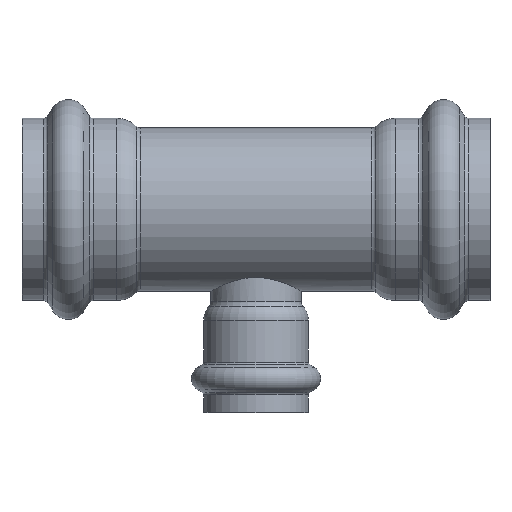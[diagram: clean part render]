
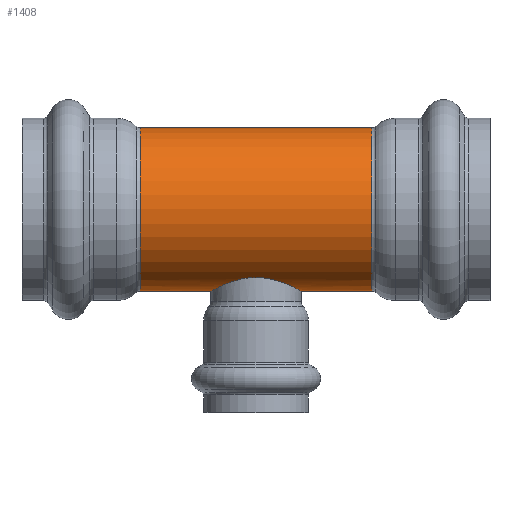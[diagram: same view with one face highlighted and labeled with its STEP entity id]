
A CAD part, top view. The second image highlights one B-rep face of the part: STEP entity #1408.
In plain terms, the highlighted cylindrical face has radius 24.13 mm (diameter 48.26 mm), a full revolution.
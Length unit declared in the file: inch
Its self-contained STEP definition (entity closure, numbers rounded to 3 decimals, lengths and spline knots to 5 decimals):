
#134=FACE_OUTER_BOUND('',#197,.T.);
#197=EDGE_LOOP('',(#1132,#1133,#1134,#1135,#1136,#1137,#1138,#1139,#1140,
#1141,#1142,#1143,#1144,#1145));
#334=CIRCLE('',#1605,0.95);
#335=CIRCLE('',#1606,0.95);
#336=CIRCLE('',#1607,0.95);
#337=CIRCLE('',#1609,0.95);
#338=CIRCLE('',#1610,0.95);
#339=CIRCLE('',#1611,0.95);
#420=LINE('',#2646,#450);
#421=LINE('',#2647,#451);
#450=VECTOR('',#2052,0.95);
#451=VECTOR('',#2053,0.95);
#460=B_SPLINE_CURVE_WITH_KNOTS('',3,(#2252,#2253,#2254,#2255,#2256,#2257,
#2258,#2259,#2260,#2261,#2262,#2263,#2264,#2265),.UNSPECIFIED.,.F.,.F.,
(4,2,2,2,2,2,4),(0.,0.25822,0.51643,1.03286,
1.54705,1.80414,2.06124),.UNSPECIFIED.);
#461=B_SPLINE_CURVE_WITH_KNOTS('',3,(#2267,#2268,#2269,#2270,#2271,#2272,
#2273,#2274,#2275,#2276,#2277,#2278,#2279,#2280),.UNSPECIFIED.,.F.,.F.,
(4,2,2,2,2,2,4),(6.18371,6.44081,6.6979,7.21209,
7.72852,7.98673,8.24495),.UNSPECIFIED.);
#462=B_SPLINE_CURVE_WITH_KNOTS('',3,(#2282,#2283,#2284,#2285,#2286,#2287,
#2288,#2289,#2290,#2291,#2292,#2293,#2294,#2295),.UNSPECIFIED.,.F.,.F.,
(4,2,2,2,2,2,4),(4.12247,4.38069,4.63891,5.15534,
5.66952,5.92662,6.18371),.UNSPECIFIED.);
#463=B_SPLINE_CURVE_WITH_KNOTS('',3,(#2301,#2302,#2303,#2304,#2305,#2306,
#2307,#2308,#2309,#2310,#2311,#2312,#2313,#2314),.UNSPECIFIED.,.F.,.F.,
(4,2,2,2,2,2,4),(2.06124,2.31833,2.57543,3.08961,
3.60604,3.86426,4.12247),.UNSPECIFIED.);
#468=VERTEX_POINT('',#2250);
#469=VERTEX_POINT('',#2251);
#470=VERTEX_POINT('',#2266);
#471=VERTEX_POINT('',#2281);
#572=VERTEX_POINT('',#2633);
#573=VERTEX_POINT('',#2635);
#574=VERTEX_POINT('',#2637);
#575=VERTEX_POINT('',#2641);
#576=VERTEX_POINT('',#2642);
#577=VERTEX_POINT('',#2644);
#628=EDGE_CURVE('',#468,#469,#460,.T.);
#629=EDGE_CURVE('',#470,#468,#461,.T.);
#630=EDGE_CURVE('',#471,#470,#462,.T.);
#634=EDGE_CURVE('',#469,#471,#463,.T.);
#772=EDGE_CURVE('',#573,#572,#334,.T.);
#773=EDGE_CURVE('',#574,#573,#335,.T.);
#774=EDGE_CURVE('',#572,#574,#336,.T.);
#775=EDGE_CURVE('',#575,#576,#337,.T.);
#776=EDGE_CURVE('',#577,#575,#338,.T.);
#777=EDGE_CURVE('',#577,#469,#420,.T.);
#778=EDGE_CURVE('',#470,#574,#421,.T.);
#779=EDGE_CURVE('',#576,#577,#339,.T.);
#1132=ORIENTED_EDGE('',*,*,#775,.F.);
#1133=ORIENTED_EDGE('',*,*,#776,.F.);
#1134=ORIENTED_EDGE('',*,*,#777,.T.);
#1135=ORIENTED_EDGE('',*,*,#634,.T.);
#1136=ORIENTED_EDGE('',*,*,#630,.T.);
#1137=ORIENTED_EDGE('',*,*,#778,.T.);
#1138=ORIENTED_EDGE('',*,*,#773,.T.);
#1139=ORIENTED_EDGE('',*,*,#772,.T.);
#1140=ORIENTED_EDGE('',*,*,#774,.T.);
#1141=ORIENTED_EDGE('',*,*,#778,.F.);
#1142=ORIENTED_EDGE('',*,*,#629,.T.);
#1143=ORIENTED_EDGE('',*,*,#628,.T.);
#1144=ORIENTED_EDGE('',*,*,#777,.F.);
#1145=ORIENTED_EDGE('',*,*,#779,.F.);
#1299=CYLINDRICAL_SURFACE('',#1608,0.95);
#1408=ADVANCED_FACE('',(#134),#1299,.T.);
#1605=AXIS2_PLACEMENT_3D('',#2636,#2040,#2041);
#1606=AXIS2_PLACEMENT_3D('',#2638,#2042,#2043);
#1607=AXIS2_PLACEMENT_3D('',#2639,#2044,#2045);
#1608=AXIS2_PLACEMENT_3D('',#2640,#2046,#2047);
#1609=AXIS2_PLACEMENT_3D('',#2643,#2048,#2049);
#1610=AXIS2_PLACEMENT_3D('',#2645,#2050,#2051);
#1611=AXIS2_PLACEMENT_3D('',#2648,#2054,#2055);
#2040=DIRECTION('center_axis',(1.,0.,0.));
#2041=DIRECTION('ref_axis',(0.,1.,0.));
#2042=DIRECTION('center_axis',(1.,0.,0.));
#2043=DIRECTION('ref_axis',(0.,1.,0.));
#2044=DIRECTION('center_axis',(1.,0.,0.));
#2045=DIRECTION('ref_axis',(0.,1.,0.));
#2046=DIRECTION('center_axis',(1.,0.,0.));
#2047=DIRECTION('ref_axis',(0.,1.,0.));
#2048=DIRECTION('center_axis',(1.,0.,0.));
#2049=DIRECTION('ref_axis',(0.,1.,0.));
#2050=DIRECTION('center_axis',(1.,0.,0.));
#2051=DIRECTION('ref_axis',(0.,1.,0.));
#2052=DIRECTION('',(-1.,0.,0.));
#2053=DIRECTION('',(-1.,0.,0.));
#2054=DIRECTION('center_axis',(1.,0.,0.));
#2055=DIRECTION('ref_axis',(0.,1.,0.));
#2250=CARTESIAN_POINT('',(0.,-0.79175,0.525));
#2251=CARTESIAN_POINT('',(0.525,-0.95,0.));
#2252=CARTESIAN_POINT('Ctrl Pts',(0.,-0.79175,0.525));
#2253=CARTESIAN_POINT('Ctrl Pts',(0.03389,-0.79175,
0.525));
#2254=CARTESIAN_POINT('Ctrl Pts',(0.06859,-0.79399,
0.52167));
#2255=CARTESIAN_POINT('Ctrl Pts',(0.13706,-0.80281,
0.508));
#2256=CARTESIAN_POINT('Ctrl Pts',(0.17081,-0.80937,
0.49766));
#2257=CARTESIAN_POINT('Ctrl Pts',(0.26733,-0.83334,
0.4572));
#2258=CARTESIAN_POINT('Ctrl Pts',(0.32533,-0.85498,
0.41713));
#2259=CARTESIAN_POINT('Ctrl Pts',(0.41693,-0.89386,
0.32553));
#2260=CARTESIAN_POINT('Ctrl Pts',(0.45714,-0.91396,
0.26747));
#2261=CARTESIAN_POINT('Ctrl Pts',(0.49769,-0.93512,0.17073));
#2262=CARTESIAN_POINT('Ctrl Pts',(0.50804,-0.94072,
0.1369));
#2263=CARTESIAN_POINT('Ctrl Pts',(0.52169,-0.94816,
0.0684));
#2264=CARTESIAN_POINT('Ctrl Pts',(0.525,-0.95,0.03374));
#2265=CARTESIAN_POINT('Ctrl Pts',(0.525,-0.95,0.));
#2266=CARTESIAN_POINT('',(-0.525,-0.95,0.));
#2267=CARTESIAN_POINT('Ctrl Pts',(-0.525,-0.95,0.));
#2268=CARTESIAN_POINT('Ctrl Pts',(-0.525,-0.95,0.03374));
#2269=CARTESIAN_POINT('Ctrl Pts',(-0.52169,-0.94816,
0.0684));
#2270=CARTESIAN_POINT('Ctrl Pts',(-0.50804,-0.94072,
0.1369));
#2271=CARTESIAN_POINT('Ctrl Pts',(-0.49769,-0.93512,0.17073));
#2272=CARTESIAN_POINT('Ctrl Pts',(-0.45714,-0.91396,
0.26747));
#2273=CARTESIAN_POINT('Ctrl Pts',(-0.41693,-0.89386,
0.32553));
#2274=CARTESIAN_POINT('Ctrl Pts',(-0.32533,-0.85498,
0.41713));
#2275=CARTESIAN_POINT('Ctrl Pts',(-0.26733,-0.83334,
0.4572));
#2276=CARTESIAN_POINT('Ctrl Pts',(-0.17081,-0.80937,
0.49766));
#2277=CARTESIAN_POINT('Ctrl Pts',(-0.13706,-0.80281,
0.508));
#2278=CARTESIAN_POINT('Ctrl Pts',(-0.06859,-0.79399,
0.52167));
#2279=CARTESIAN_POINT('Ctrl Pts',(-0.03389,-0.79175,
0.525));
#2280=CARTESIAN_POINT('Ctrl Pts',(0.,-0.79175,
0.525));
#2281=CARTESIAN_POINT('',(0.,-0.79175,-0.525));
#2282=CARTESIAN_POINT('Ctrl Pts',(0.,-0.79175,
-0.525));
#2283=CARTESIAN_POINT('Ctrl Pts',(-0.03389,-0.79175,
-0.525));
#2284=CARTESIAN_POINT('Ctrl Pts',(-0.06859,-0.79399,
-0.52167));
#2285=CARTESIAN_POINT('Ctrl Pts',(-0.13706,-0.80281,
-0.508));
#2286=CARTESIAN_POINT('Ctrl Pts',(-0.17081,-0.80937,
-0.49766));
#2287=CARTESIAN_POINT('Ctrl Pts',(-0.26733,-0.83334,
-0.4572));
#2288=CARTESIAN_POINT('Ctrl Pts',(-0.32533,-0.85498,
-0.41713));
#2289=CARTESIAN_POINT('Ctrl Pts',(-0.41693,-0.89386,
-0.32553));
#2290=CARTESIAN_POINT('Ctrl Pts',(-0.45714,-0.91396,
-0.26747));
#2291=CARTESIAN_POINT('Ctrl Pts',(-0.49769,-0.93512,-0.17073));
#2292=CARTESIAN_POINT('Ctrl Pts',(-0.50804,-0.94072,
-0.1369));
#2293=CARTESIAN_POINT('Ctrl Pts',(-0.52169,-0.94816,
-0.0684));
#2294=CARTESIAN_POINT('Ctrl Pts',(-0.525,-0.95,-0.03374));
#2295=CARTESIAN_POINT('Ctrl Pts',(-0.525,-0.95,0.));
#2301=CARTESIAN_POINT('Ctrl Pts',(0.525,-0.95,0.));
#2302=CARTESIAN_POINT('Ctrl Pts',(0.525,-0.95,-0.03374));
#2303=CARTESIAN_POINT('Ctrl Pts',(0.52169,-0.94816,
-0.0684));
#2304=CARTESIAN_POINT('Ctrl Pts',(0.50804,-0.94072,
-0.1369));
#2305=CARTESIAN_POINT('Ctrl Pts',(0.49769,-0.93512,-0.17073));
#2306=CARTESIAN_POINT('Ctrl Pts',(0.45714,-0.91396,
-0.26747));
#2307=CARTESIAN_POINT('Ctrl Pts',(0.41693,-0.89386,
-0.32553));
#2308=CARTESIAN_POINT('Ctrl Pts',(0.32533,-0.85498,
-0.41713));
#2309=CARTESIAN_POINT('Ctrl Pts',(0.26733,-0.83334,
-0.4572));
#2310=CARTESIAN_POINT('Ctrl Pts',(0.17081,-0.80937,
-0.49766));
#2311=CARTESIAN_POINT('Ctrl Pts',(0.13706,-0.80281,
-0.508));
#2312=CARTESIAN_POINT('Ctrl Pts',(0.06859,-0.79399,
-0.52167));
#2313=CARTESIAN_POINT('Ctrl Pts',(0.03389,-0.79175,
-0.525));
#2314=CARTESIAN_POINT('Ctrl Pts',(0.,-0.79175,
-0.525));
#2633=CARTESIAN_POINT('',(-1.34535,0.,0.95));
#2635=CARTESIAN_POINT('',(-1.34535,0.95,0.));
#2636=CARTESIAN_POINT('Origin',(-1.34535,0.,0.));
#2637=CARTESIAN_POINT('',(-1.34535,-0.95,0.));
#2638=CARTESIAN_POINT('Origin',(-1.34535,0.,0.));
#2639=CARTESIAN_POINT('Origin',(-1.34535,0.,0.));
#2640=CARTESIAN_POINT('Origin',(0.67268,0.,0.));
#2641=CARTESIAN_POINT('',(1.34535,0.95,0.));
#2642=CARTESIAN_POINT('',(1.34535,0.,0.95));
#2643=CARTESIAN_POINT('Origin',(1.34535,0.,0.));
#2644=CARTESIAN_POINT('',(1.34535,-0.95,0.));
#2645=CARTESIAN_POINT('Origin',(1.34535,0.,0.));
#2646=CARTESIAN_POINT('',(0.67268,-0.95,0.));
#2647=CARTESIAN_POINT('',(0.67268,-0.95,0.));
#2648=CARTESIAN_POINT('Origin',(1.34535,0.,0.));
